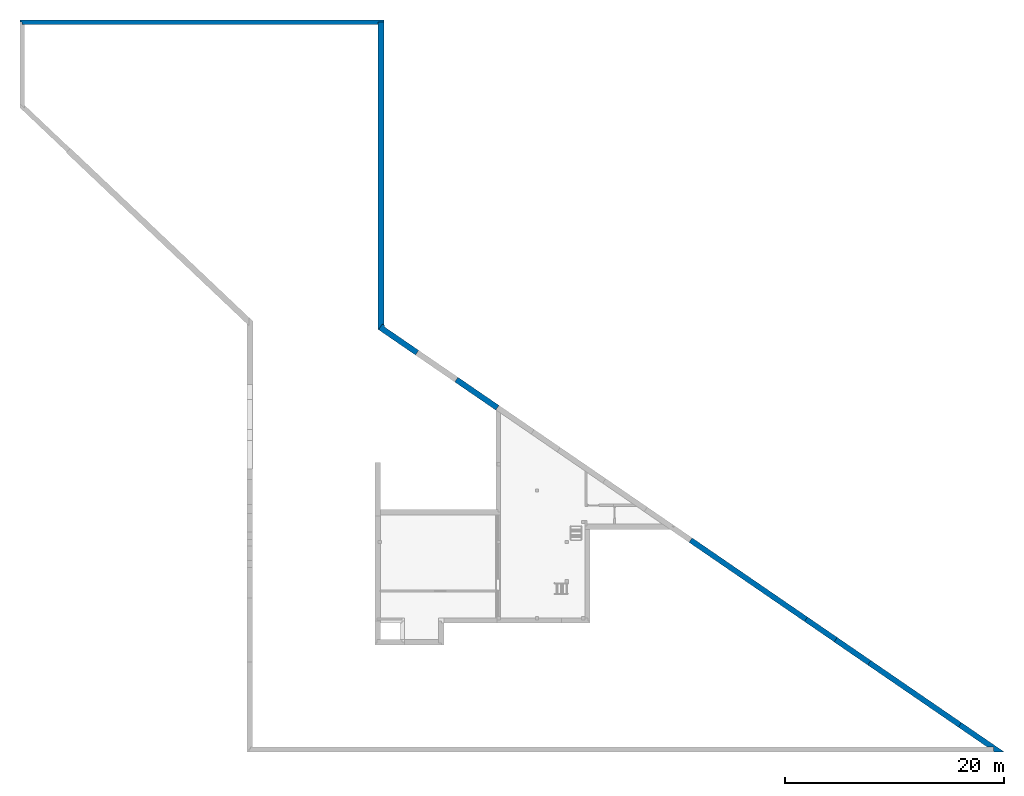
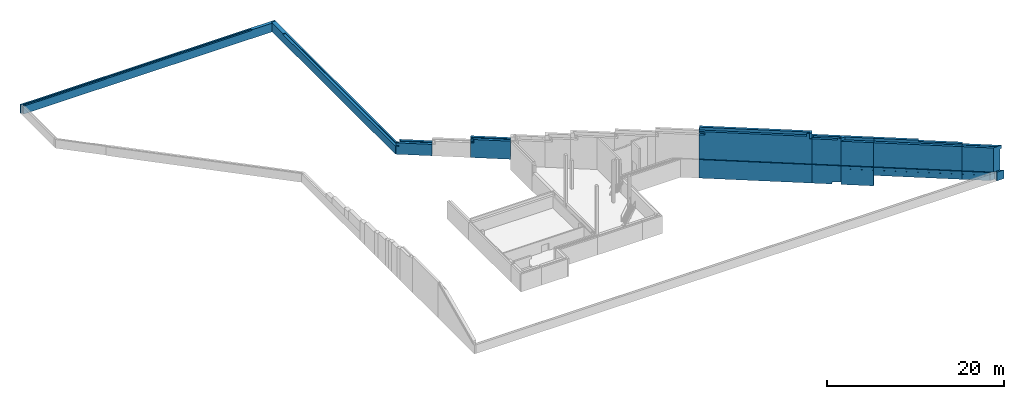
# One storey, part 8 of 8: 9 walls.
"""IFC2X3 building model written with IfcOpenShell, lengths in millimetres."""

from ifc_helpers import new_model, entity, si_unit, converted_unit, derived_unit, money_unit, direction, frame, origin_with_axes, place, context, subcontext, project, spatial, faceted_brep, material, material_list, type_object, element, save


model = new_model("IFC2X3")

# Units and contexts
model_context = context("Model", 3, precision=0.01, world=origin_with_axes(), true_north=direction((0.0, 1.0)))
body_context = subcontext(model_context, "Body", "Model", "MODEL_VIEW")
ifc_project = project(units=[si_unit("LENGTHUNIT", "METRE", prefix="MILLI"), si_unit("AREAUNIT", "SQUARE_METRE"), si_unit("VOLUMEUNIT", "CUBIC_METRE"), converted_unit("PLANEANGLEUNIT", "DEGREE", entity("IfcPlaneAngleMeasure", 0.0174532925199), si_unit("PLANEANGLEUNIT", "RADIAN"), dimensions=[0, 0, 0, 0, 0, 0, 0]), si_unit("SOLIDANGLEUNIT", "STERADIAN"), money_unit("EUR"), converted_unit("TIMEUNIT", "Year", entity("IfcTimeMeasure", 31556926.0), si_unit("TIMEUNIT", "SECOND"), dimensions=[0, 0, 1, 0, 0, 0, 0]), si_unit("MASSUNIT", "GRAM", prefix="KILO"), si_unit("THERMODYNAMICTEMPERATUREUNIT", "DEGREE_CELSIUS"), si_unit("LUMINOUSINTENSITYUNIT", "LUMEN"), si_unit("ENERGYUNIT", "JOULE", prefix="MEGA"), derived_unit("THERMALCONDUCTANCEUNIT", [(si_unit("POWERUNIT", "WATT"), 1), (si_unit("LENGTHUNIT", "METRE"), -1), (si_unit("THERMODYNAMICTEMPERATUREUNIT", "KELVIN"), -1)]), derived_unit("SPECIFICHEATCAPACITYUNIT", [(si_unit("ENERGYUNIT", "JOULE"), 1), (si_unit("MASSUNIT", "GRAM", prefix="KILO"), -1), (si_unit("THERMODYNAMICTEMPERATUREUNIT", "KELVIN"), -1)]), derived_unit("MASSDENSITYUNIT", [(si_unit("MASSUNIT", "GRAM", prefix="KILO"), 1), (si_unit("VOLUMEUNIT", "CUBIC_METRE"), -1)])], contexts=[model_context])

# Site, building, storey
site_placement = place(None, origin_with_axes())
site = spatial("IfcSite", under=ifc_project, at=site_placement, Name="L.Koidula tn 11b", CompositionType="ELEMENT")
building_placement = place(site_placement, origin_with_axes())
building = spatial("IfcBuilding", under=site, at=building_placement, Name="Rakvere Riigigümnaasium", CompositionType="ELEMENT")
storey_placement = place(building_placement, frame((0.0, 0.0, -2100.0), z_axis=(0.0, 0.0, 1.0), x_axis=(1.0, 0.0, 0.0)))
storey = spatial("IfcBuildingStorey", under=building, at=storey_placement, Name="1.korrus_tehniline -2,10", CompositionType="ELEMENT", Elevation=-2100.0)

# Walls
ifc_material_1 = material(Name="SOJ-04_Soojustus - Mineraal Kõva")
ifc_material_2 = material(Name="Betoon element / plaat")
ifc_material_list_1 = material_list([ifc_material_1, ifc_material_2])
wall_type_1 = type_object("IfcWallType", Name="VS-04 400", PredefinedType="NOTDEFINED")
wall_1_placement = place(storey_placement, frame((14630.0344055, 71600.4516838, 899.999983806), z_axis=(0.0, 0.0, 1.0), x_axis=(1.0, 0.0, 0.0)))
element("IfcWall", 1, at=wall_1_placement, inside=storey, type_object=wall_type_1, material=ifc_material_list_1, Name="Välissein", context=body_context, shape_type="Brep", body=[
    faceted_brep([(32894.9655879, 200.0, 1200.0), (32894.9655879, 400.0, 1200.0), (-400.0, 400.0, 1200.0), (-400.0, 200.0, 1200.0), (32894.9655879, 200.0, 0.0), (32894.9655879, 400.0, 0.0), (-400.0, 400.0, 0.0), (-400.0, 200.0, 0.0)], [[[0, 1, 2, 3]], [[1, 0, 4, 5]], [[1, 5, 6, 2]], [[7, 3, 2, 6]], [[4, 0, 3, 7]], [[5, 4, 7, 6]]]),
    faceted_brep([(29700.0004475, 200.000117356, 1110.00001619), (29700.0004475, 200.000117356, 1200.00001619), (32344.9655879, 200.0, 1200.0), (32344.9655879, 200.0, 0.0), (-200.0, 200.0, 0.0), (-200.0, 200.0, 1200.0), (-100.0, 200.0, 1200.00001619), (-100.0, 200.0, 1093.00001619), (1711.96562367, 200.000052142, 1093.00001619), (1711.96562367, 200.000052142, 1080.00001619), (10669.9654986, 200.000309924, 1080.00001619), (10669.9654986, 200.000309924, 1110.00001619), (29700.0004475, 0.0, 1110.00001619), (29700.0004475, 0.0, 1200.00001619), (32344.9655879, 0.0, 1200.0), (32344.9655879, 0.0, 0.0), (-200.0, 0.0, 0.0), (-200.0, 0.0, 1200.0), (-100.0, 0.0, 1199.99992178), (-100.0, 0.0, 1093.00001619), (1711.96562367, 0.0, 1093.00001619), (1711.96562367, 0.0, 1080.00001619), (10669.9654985, 0.0, 1080.00001619), (10669.9654985, 0.0, 1110.00001619)], [[[0, 1, 2, 3, 4, 5, 6, 7, 8, 9, 10, 11]], [[1, 0, 12, 13]], [[1, 13, 14, 2]], [[2, 14, 15, 3]], [[3, 15, 16, 4]], [[16, 17, 5, 4]], [[18, 6, 5, 17]], [[19, 7, 6, 18]], [[20, 8, 7, 19]], [[8, 20, 21, 9]], [[10, 9, 21, 22]], [[23, 11, 10, 22]], [[12, 0, 11, 23]], [[12, 23, 22, 21, 20, 19, 18, 17, 16, 15, 14, 13]]]),
])
wall_type_2 = type_object("IfcWallType", Name="VS-08 550", PredefinedType="NOTDEFINED")
wall_2_placement = place(storey_placement, frame((46974.9999935, 71600.4516838, 899.999983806), z_axis=(0.0, 0.0, 1.0), x_axis=(0.0, -1.0, 0.0)))
element("IfcWall", 2, at=wall_2_placement, inside=storey, type_object=wall_type_2, material=ifc_material_list_1, Name="Välissein", context=body_context, shape_type="Brep", body=[
    faceted_brep([(27897.7930206, 350.0, 1200.0), (27897.7930206, 550.0, 1200.0), (-200.0, 550.0, 1200.0), (-200.0, 350.0, 1200.0), (27897.7930206, 350.0, 0.0), (27897.7930206, 550.0, 0.0), (-200.0, 550.0, 0.0), (-200.0, 350.0, 0.0)], [[[0, 1, 2, 3]], [[0, 4, 5, 1]], [[1, 5, 6, 2]], [[3, 2, 6, 7]], [[4, 0, 3, 7]], [[5, 4, 7, 6]]]),
    faceted_brep([(27499.9961734, 325.0, 1200.00001619), (27499.9961734, 325.0, 1110.00001619), (27499.9961734, 344.999989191, 1110.00001619), (27499.9961734, 344.999989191, 1200.00001619), (2421.32038252, 325.0, 1110.00001619), (2421.32038252, 325.0, 1200.00001619), (27897.7930206, 0.0, 1110.00001619), (27897.7930206, 344.999989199, 1110.00001619), (2421.32038252, 0.0, 1110.00001619), (27897.7930206, 344.999989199, 1200.00001619), (27897.7930206, 350.0, 1200.0), (-200.0, 350.0, 1200.0), (-200.0, 0.0, 1200.0), (2421.32038252, 0.0, 1200.00001619), (27897.7930206, 0.0, 0.0), (27897.7930206, 350.0, 0.0), (-200.0, 0.0, 0.0), (-200.0, 350.0, 0.0)], [[[0, 1, 2, 3]], [[4, 1, 0, 5]], [[6, 7, 2, 1, 4, 8]], [[3, 2, 7, 9]], [[5, 0, 3, 9, 10, 11, 12, 13]], [[8, 4, 5, 13]], [[7, 6, 14, 15, 10, 9]], [[8, 13, 12, 16, 14, 6]], [[11, 10, 15, 17]], [[16, 12, 11, 17]], [[17, 15, 14, 16]]]),
])
ifc_material_3 = material(Name="Betoon")
ifc_material_4 = material(Name="Krohv")
ifc_material_list_2 = material_list([ifc_material_3, ifc_material_1, ifc_material_2, ifc_material_4])
wall_type_3 = type_object("IfcWallType", Name="VS-07-2 610", PredefinedType="NOTDEFINED")
wall_3_placement = place(storey_placement, frame((88720.8224893, 15100.4785302, -550.0), z_axis=(0.0, 0.0, 1.0), x_axis=(0.824666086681, -0.565619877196, 0.0)))
element("IfcWall", 3, at=wall_3_placement, inside=storey, type_object=wall_type_3, material=ifc_material_list_2, Name="Välissein", context=body_context, shape_type="Brep", body=[
    faceted_brep([(3734.81331839, 500.0, 5851.72395226), (3734.81331839, 600.0, 5851.72395169), (3734.81331839, 600.0, 6370.0), (3734.81331839, 500.0, 6370.0), (0.0, 600.0, 5930.40721476), (0.0, 500.0, 5930.40721534), (0.0, 600.0, 6370.0), (0.0, 500.0, 6370.0)], [[[0, 1, 2, 3]], [[4, 1, 0, 5]], [[1, 4, 6, 2]], [[2, 6, 7, 3]], [[5, 0, 3, 7]], [[4, 5, 7, 6]]]),
    faceted_brep([(3734.81331839, 499.770000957, 0.0), (3734.81331839, 499.770000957, 5851.72395226), (3734.81331839, 500.0, 5851.72395226), (3734.81331839, 500.0, 6370.0), (3734.81331839, 300.0, 6370.0), (3734.81331839, 300.0, 0.0), (0.0, 499.768982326, 0.0), (0.0, 499.768982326, 5930.40721534), (0.0, 500.0, 5930.40721534), (0.0, 500.0, 6370.0), (0.0, 300.0, 6370.0), (0.0, 300.0, 0.0)], [[[0, 1, 2, 3, 4, 5]], [[1, 0, 6, 7]], [[8, 2, 1, 7]], [[2, 8, 9, 3]], [[3, 9, 10, 4]], [[4, 10, 11, 5]], [[6, 0, 5, 11]], [[7, 6, 11, 10, 9, 8]]]),
    faceted_brep([(3734.81331839, 0.0, 2640.0), (0.0, 0.0, 2640.0), (0.0, 299.984460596, 2640.0), (3734.81331839, 299.984460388, 2640.0), (3734.81331839, 0.0, 5975.0), (0.0, 0.0, 5975.0), (0.0, 299.984460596, 2560.0), (0.0, 0.0, 6370.0), (0.0, 242.488195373, 6370.0), (0.0, 242.488195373, 6120.0), (0.0, 299.989154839, 6120.0), (0.0, 299.989154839, 6370.0), (0.0, 300.0, 6370.0), (0.0, 300.0, 0.0), (0.0, 0.0, 0.0), (0.0, 0.0, 2560.0), (3734.81331839, 299.984460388, 2560.0), (3734.81331839, 299.995901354, 5975.0), (3734.81331839, 0.0, 2560.0), (3734.81331839, 0.0, 0.0), (3734.81331839, 300.0, 0.0), (437.388664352, 299.995024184, 5975.0), (437.388664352, 299.995024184, 6370.0), (83.8357515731, 299.989021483, 6370.0), (83.8357515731, 299.989021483, 6120.0)], [[[0, 1, 2, 3]], [[0, 4, 5, 1]], [[6, 2, 1, 5, 7, 8, 9, 10, 11, 12, 13, 14, 15]], [[16, 3, 2, 6]], [[17, 4, 0, 3, 16, 18, 19, 20]], [[21, 5, 4, 17]], [[7, 5, 21, 22]], [[8, 7, 22, 12, 11, 23]], [[9, 8, 23, 24]], [[24, 10, 9]], [[24, 23, 11, 10]], [[22, 21, 17, 20, 13, 12]], [[20, 19, 14, 13]], [[19, 18, 15, 14]], [[16, 6, 15, 18]]]),
    faceted_brep([(17.6797181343, 0.0, 2650.0), (17.6797181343, 0.0, 5975.0), (3217.7493938, 0.0, 5975.0), (3217.7493938, 0.0, 2650.0), (3.09985416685, -10.0, 2650.0), (3.09985416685, -10.0, 5975.0), (3203.16953822, -10.0, 5975.0), (3203.16953822, -10.0, 2650.0)], [[[0, 1, 2, 3]], [[4, 5, 1, 0]], [[5, 6, 2, 1]], [[3, 2, 6, 7]], [[4, 0, 3, 7]], [[7, 6, 5, 4]]]),
    faceted_brep([(0.0, 0.0, 2160.0), (3734.81331839, 0.0, 2160.0), (3734.81331839, 0.0, 0.0), (0.0, 0.0, 0.0), (0.0, -10.0, 2160.0), (3734.81331839, -10.0, 2160.0), (3734.81331839, -10.0, 0.0), (0.0, -10.0, 0.0)], [[[0, 1, 2, 3]], [[4, 5, 1, 0]], [[2, 1, 5, 6]], [[2, 6, 7, 3]], [[7, 4, 0, 3]], [[6, 5, 4, 7]]]),
    faceted_brep([(3589.0233294, 0.0, 2650.0), (3589.0233294, 0.0, 5975.0), (3734.81331839, 0.0, 5975.0), (3734.81331839, 0.0, 2650.0), (3574.44347382, -10.0, 2650.0), (3574.44347382, -9.99999999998, 5975.0), (3734.81331839, -10.0, 5975.0), (3734.81331839, -10.0, 2650.0)], [[[0, 1, 2, 3]], [[4, 5, 1, 0]], [[5, 6, 2, 1]], [[3, 2, 6, 7]], [[4, 0, 3, 7]], [[7, 6, 5, 4]]]),
])
wall_4_placement = place(storey_placement, frame((100081.800238, 7308.24001987, 900.0), z_axis=(0.0, 0.0, 1.0), x_axis=(0.824666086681, -0.565619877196, 0.0)))
element("IfcWall", 4, at=wall_4_placement, inside=storey, type_object=wall_type_3, material=ifc_material_list_2, Name="Välissein", context=body_context, shape_type="Brep", body=[
    faceted_brep([(4278.69956714, 500.000000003, 4100.02977862), (4424.49818951, 599.999988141, 4096.95816231), (4424.49818935, 599.999988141, 4544.20366831), (4278.69956697, 500.000000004, 4544.20366831), (0.0, 600.0, 4190.17137683), (0.0, 500.0, 4190.1713774), (0.0, 600.0, 4544.20366831), (0.0, 500.0, 4544.20366831)], [[[0, 1, 2, 3]], [[4, 1, 0, 5]], [[1, 4, 6, 2]], [[6, 7, 3, 2]], [[5, 0, 3, 7]], [[4, 5, 7, 6]]]),
    faceted_brep([(4720.36305623, 499.774027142, -1.61944653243e-05), (4720.36305623, 499.774027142, 1199.99998381), (4429.09524223, 300.0, 1199.99998381), (4429.09524223, 300.0, -1.61944653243e-05), (4278.36992711, 499.773906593, 1199.99998385), (0.0, 499.772739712, 0.0), (0.0, 499.772739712, 4190.1713774), (4278.36992711, 499.773906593, 4100.03672332), (3987.10228888, 300.0, 1199.99998393), (3633.50792619, 300.0, -1.61944653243e-05), (3633.50792619, 300.0, 1199.99998381), (3697.53749588, 300.0, 1199.99998381), (3697.53749588, 300.0, -1.61944653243e-05), (3987.10228764, 300.000000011, 4544.20366831), (0.0, 300.0, 4544.20366831), (0.0, 300.0, 0.0), (3677.05278166, 329.866434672, -1.61944653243e-05), (0.0, 500.0, 4544.20366831), (0.0, 500.0, 4190.1713774), (4278.69956714, 500.000000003, 4100.02977862), (4278.69956697, 500.000000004, 4544.20366831), (3677.05278166, 329.866434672, 1199.99998381)], [[[0, 1, 2, 3]], [[4, 1, 0, 5, 6, 7]], [[1, 4, 8, 2]], [[9, 10, 11, 12, 3, 2, 8, 13, 14, 15]], [[5, 0, 3, 12, 16, 9, 15]], [[6, 5, 15, 14, 17, 18]], [[18, 19, 7, 6]], [[7, 19, 20, 13, 8, 4]], [[21, 10, 9, 16]], [[10, 21, 11]], [[11, 21, 16, 12]], [[17, 14, 13, 20]], [[19, 18, 17, 20]]]),
    faceted_brep([(0.0, 300.0, 0.0), (3.69482222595e-10, 299.998572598, 4525.0), (3987.10175413, 299.999633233, 4525.0), (3987.10228888, 300.0, 1199.99998393), (4429.09524223, 300.0, 1199.99998381), (4429.09524223, 300.0, -1.61944653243e-05), (3697.53749588, 300.0, -1.61944653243e-05), (3697.53749588, 300.0, 1199.99998381), (3633.50792619, 300.0, 1199.99998381), (3633.50792619, 300.0, -1.61944653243e-05), (0.0, 0.0, 1190.0), (0.0, 0.0, 4525.0), (0.0, 0.0, 0.0), (0.0, 0.0, 1110.0), (0.0, 299.984453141, 1110.0), (0.0, 299.984453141, 1190.0), (3549.70636904, -5.57584201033e-07, 4525.0), (3549.70636964, -1.47856837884e-07, 1199.99998381), (3790.1767571, 164.933217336, 1199.99998381), (3903.30073254, 0.0, 1199.99998381), (3991.69932321, 0.0, 1199.99998381), (3991.69932321, 0.0, -1.61944653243e-05), (3903.30073254, 0.0, -1.61944653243e-05), (3790.1767571, 164.933217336, 1190.0), (3790.1767571, 164.933217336, 1110.0), (3697.54816095, 299.984450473, 1110.0), (3697.54816095, 299.984450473, 1190.0), (3196.11200716, 0.0, 1199.99998381), (3633.48525526, 299.984450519, 1190.0), (3633.48525526, 299.984450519, 1110.0), (3196.11200716, 0.0, 1110.0), (3196.11200716, 0.0, -1.61944653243e-05), (3196.11200716, 0.0, 1190.0), (3987.07961757, 299.984450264, 1110.0), (3987.07961757, 299.984450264, 1190.0)], [[[0, 1, 2, 3, 4, 5, 6, 7, 8, 9]], [[10, 11, 1, 0, 12, 13, 14, 15]], [[11, 16, 2, 1]], [[3, 2, 16, 17, 18]], [[4, 3, 18, 19, 20]], [[21, 5, 4, 20]], [[21, 22, 6, 5]], [[22, 19, 18, 7, 6], [23, 24, 25, 26]], [[17, 27, 8, 7, 18]], [[28, 29, 30, 31, 9, 8, 27, 32]], [[12, 0, 9, 31]], [[17, 16, 11, 10, 32, 27]], [[31, 30, 13, 12]], [[13, 30, 29, 14]], [[14, 29, 28, 15]], [[15, 28, 32, 10]], [[21, 20, 19, 22]], [[33, 24, 23, 34]], [[33, 25, 24]], [[34, 26, 25, 33]], [[34, 23, 26]]]),
    faceted_brep([(0.0, 0.0, 0.0), (0.0, 0.0, 710.0), (3196.11200655, 2.92743607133e-09, 710.0), (3196.11200716, 0.0, -1.61944653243e-05), (0.0, -10.0, 0.0), (0.0, -10.0, 710.0), (3181.53214259, -9.99999999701, 710.0), (3181.5321432, -9.99999999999, -1.61944653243e-05)], [[[0, 1, 2, 3]], [[4, 5, 1, 0]], [[5, 6, 2, 1]], [[3, 2, 6, 7]], [[4, 0, 3, 7]], [[7, 6, 5, 4]]]),
    faceted_brep([(3991.69932321, 0.0, 1199.99998381), (3991.69932321, 0.0, -1.61944653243e-05), (3903.30073254, 0.0, -1.61944653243e-05), (3903.30073254, 0.0, 1199.99998381), (3977.11945924, -10.0, -1.61944653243e-05), (3977.11945924, -10.0, 1199.99998381), (3910.15950709, -10.0, -1.61944653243e-05), (3910.15950709, -10.0, 1199.99998381)], [[[0, 1, 2, 3]], [[4, 1, 0, 5]], [[1, 4, 6, 2]], [[2, 6, 7, 3]], [[5, 0, 3, 7]], [[4, 5, 7, 6]]]),
    faceted_brep([(0.0, 0.0, 1200.0), (0.0, 0.0, 4525.0), (3196.11200327, 1.87085902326e-08, 4525.0), (3196.11200613, 4.96669372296e-09, 1200.0), (0.0, -10.0, 1200.0), (0.0, -9.99999999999, 4525.0), (3181.5321393, -9.99999998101, 4525.0), (3181.53214216, -9.99999999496, 1200.0)], [[[0, 1, 2, 3]], [[4, 5, 1, 0]], [[5, 6, 2, 1]], [[3, 2, 6, 7]], [[4, 0, 3, 7]], [[7, 6, 5, 4]]]),
])
wall_5_placement = place(storey_placement, frame((91800.7963731, 12987.9938797, 900.0), z_axis=(0.0, 0.0, 1.0), x_axis=(0.824666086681, -0.565619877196, 0.0)))
element("IfcWall", 5, at=wall_5_placement, inside=storey, type_object=wall_type_3, material=ifc_material_list_2, Name="Välissein", context=body_context, shape_type="Brep", body=[
    faceted_brep([(5041.6445985, 600.0, 4920.0), (5041.6445985, 600.0, 4748.20366831), (10041.6448236, 600.0, 4748.20366831), (10041.6447315, 600.0, 4190.17137683), (0.0, 600.0, 4401.72395169), (0.0, 600.0, 4920.0), (5041.6446251, 500.0, 4920.0), (5041.6446251, 500.0, 4748.20366831), (10041.6448503, 500.0, 4748.20366831), (10041.6447315, 500.0, 4190.1713774), (0.0, 500.0, 4401.72395226), (0.0, 500.0, 4920.0)], [[[0, 1, 2, 3, 4, 5]], [[1, 0, 6, 7]], [[2, 1, 7, 8]], [[2, 8, 9, 3]], [[9, 10, 4, 3]], [[11, 5, 4, 10]], [[0, 5, 11, 6]], [[10, 9, 8, 7, 6, 11]]]),
    faceted_brep([(5041.6446251, 500.0, 4920.0), (5041.6446251, 500.0, 4748.20366831), (10041.6448503, 500.0, 4748.20366831), (10041.6447315, 500.0, 4190.1713774), (0.0, 500.0, 4401.72395226), (0.0, 500.0, 4920.0), (5041.6446783, 299.997242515, 4920.0), (5041.6446783, 299.997242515, 4748.20366831), (10041.6449035, 299.998572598, 4748.20366831), (10041.6447315, 300.0, 0.0), (10041.6447315, 499.772739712, 0.0), (10041.6447315, 499.772739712, 4190.1713774), (0.0, 499.770000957, 4401.72395226), (0.0, 499.770000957, 0.0), (0.0, 300.0, 0.0), (0.0, 300.0, 4920.0)], [[[0, 1, 2, 3, 4, 5]], [[1, 0, 6, 7]], [[2, 1, 7, 8]], [[2, 8, 9, 10, 11, 3]], [[12, 4, 3, 11]], [[4, 12, 13, 14, 15, 5]], [[0, 5, 15, 6]], [[7, 6, 15, 14, 9, 8]], [[14, 13, 10, 9]], [[12, 11, 10, 13]]]),
    faceted_brep([(1.09423581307e-09, 299.995901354, 4525.0), (10041.6447315, 299.998572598, 4525.0), (10041.6447315, 300.0, 0.0), (0.0, 300.0, 0.0), (0.0, 0.0, 4525.0), (10041.6447315, 0.0, 4525.0), (10041.6447315, 0.0, 1190.0), (10041.6447315, 299.984453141, 1190.0), (10041.6447315, 299.984453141, 1110.0), (10041.6447315, 0.0, 1110.0), (10041.6447315, 0.0, 0.0), (0.0, 0.0, 0.0), (0.0, 0.0, 1190.0), (0.0, 0.0, 1110.0), (0.0, 299.984460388, 1110.0), (0.0, 299.984460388, 1190.0)], [[[0, 1, 2, 3]], [[0, 4, 5, 1]], [[2, 1, 5, 6, 7, 8, 9, 10]], [[11, 3, 2, 10]], [[12, 4, 0, 3, 11, 13, 14, 15]], [[6, 5, 4, 12]], [[15, 7, 6, 12]], [[14, 8, 7, 15]], [[14, 13, 9, 8]], [[10, 9, 13, 11]]]),
    faceted_brep([(0.0, 0.0, 0.0), (0.0, 0.0, 710.0), (10041.6447315, 0.0, 710.0), (10041.6447315, 0.0, 0.0), (0.0, -10.0, 0.0), (0.0, -10.0, 710.0), (10041.6447315, -10.0, 710.0), (10041.6447315, -10.0, 0.0)], [[[0, 1, 2, 3]], [[4, 5, 1, 0]], [[5, 6, 2, 1]], [[3, 2, 6, 7]], [[4, 0, 3, 7]], [[7, 6, 5, 4]]]),
    faceted_brep([(0.0, 0.0, 1200.0), (0.0, 0.0, 4525.0), (10041.6447315, 0.0, 4525.0), (10041.6447315, 0.0, 1200.0), (0.0, -10.0, 1200.0), (0.0, -10.0, 4525.0), (10041.6447315, -10.0, 4525.0), (10041.6447315, -10.0, 1200.0)], [[[0, 1, 2, 3]], [[4, 5, 1, 0]], [[5, 6, 2, 1]], [[3, 2, 6, 7]], [[4, 0, 3, 7]], [[7, 6, 5, 4]]]),
])
ifc_material_list_3 = material_list([ifc_material_3, ifc_material_1, ifc_material_2])
wall_type_4 = type_object("IfcWallType", Name="VS-07-1 600", PredefinedType="NOTDEFINED")
wall_6_placement = place(storey_placement, frame((75445.0913723, 24205.9991517, -550.0), z_axis=(0.0, 0.0, 1.0), x_axis=(0.824666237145, -0.565619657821, 0.0)))
element("IfcWall", 6, at=wall_6_placement, inside=storey, type_object=wall_type_4, material=ifc_material_list_3, Name="Välissein", context=body_context, shape_type="Brep", body=[
    faceted_brep([(5974.37851573, 500.0, 6400.07148483), (5974.37851506, 600.0, 6400.07148483), (11203.3730122, 600.0, 6033.53138481), (11203.3730128, 500.0, 6033.53138481), (0.0, 600.0, 5791.10449971), (0.0, 500.0, 5791.10449964), (0.0, 600.0, 6835.0), (12798.4313434, 600.0, 6835.0), (12798.4313434, 600.0, 5999.92745776), (12798.4313434, 500.0, 5999.92745778), (12798.4313434, 500.0, 6835.0), (0.0, 500.0, 6835.0)], [[[0, 1, 2, 3]], [[4, 1, 0, 5]], [[1, 4, 6, 7, 8, 2]], [[3, 2, 8, 9]], [[5, 0, 3, 9, 10, 11]], [[4, 5, 11, 6]], [[11, 10, 7, 6]], [[10, 9, 8, 7]]]),
    faceted_brep([(5974.37851573, 499.76797782, 6400.07148483), (5974.37851573, 500.0, 6400.07148483), (11203.3730128, 500.0, 6033.53138481), (11203.3730128, 499.768012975, 6033.53138481), (0.0, 500.0, 5791.10449964), (0.0, 499.767937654, 5791.10449964), (0.0, 500.0, 6835.0), (12798.4313434, 500.0, 6835.0), (12798.4313434, 500.0, 5999.92745778), (12798.4313434, 499.768023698, 5999.92745778), (5974.37851573, 499.76797782, 0.0), (0.0, 499.767937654, 0.0), (12798.4313434, 499.768023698, 0.0), (0.0, 300.0, 0.0), (0.0, 300.0, 6835.0), (12798.4313434, 300.0, 6835.0), (12798.4313434, 300.0, 0.0)], [[[0, 1, 2, 3]], [[4, 1, 0, 5]], [[1, 4, 6, 7, 8, 2]], [[3, 2, 8, 9]], [[10, 11, 5, 0, 3, 9, 12]], [[5, 11, 13, 14, 6, 4]], [[14, 15, 7, 6]], [[16, 12, 9, 8, 7, 15]], [[11, 10, 12, 16, 13]], [[13, 16, 15, 14]]]),
    faceted_brep([(12173.4517442, 0.0, 6835.0), (12528.0318749, 0.0, 6835.0), (12798.4313434, 185.460865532, 6835.0), (12798.4313434, 300.0, 6835.0), (12610.8391231, 299.993971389, 6835.0), (12528.0318749, 0.0, 6120.0), (12528.0318749, 0.0, 6370.0), (12173.4517442, 0.0, 6440.0), (1.00002128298, 0.0, 6440.0), (1.00002128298, 0.0, 6835.0), (0.0, 0.0, 6835.0), (0.0, 0.0, 6240.0), (648.612118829, 0.0, 6240.0), (648.612118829, 0.0, 5975.0), (0.0, 0.0, 5975.0), (0.0, 0.0, 2640.0), (12798.4313434, 0.0, 2640.0), (12798.4313434, 0.0, 6120.0), (12798.4313434, 185.460865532, 6370.0), (12798.4313434, 185.460865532, 6120.0), (12798.4313434, 299.984306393, 2640.0), (12798.4313434, 299.984306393, 2560.0), (12798.4313434, 0.0, 2560.0), (12798.4313434, 0.0, 0.0), (12798.4313434, 300.0, 0.0), (0.0, 300.0, 0.0), (0.0, 300.0, 6835.0), (1.000021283, 299.993971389, 6835.0), (1.000021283, 299.993971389, 6440.0), (12610.8391231, 299.993971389, 6440.0), (0.0, 0.0, 0.0), (0.0, 0.0, 2560.0), (0.0, 299.987820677, 2560.0), (0.0, 299.987820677, 2640.0), (0.0, 299.986424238, 5975.0), (0.0, 299.986424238, 6240.0), (442.858761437, 299.985767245, 6240.0), (442.858761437, 299.985767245, 5975.0)], [[[0, 1, 2, 3, 4]], [[5, 6, 1, 0, 7, 8, 9, 10, 11, 12, 13, 14, 15, 16, 17]], [[6, 18, 2, 1]], [[3, 2, 18, 19, 17, 16, 20, 21, 22, 23, 24]], [[3, 24, 25, 26, 27, 28, 29, 4]], [[0, 4, 29, 7]], [[19, 18, 6, 5]], [[7, 29, 28, 8]], [[9, 8, 28, 27]], [[10, 9, 27, 26]], [[26, 25, 30, 31, 32, 33, 15, 14, 34, 35, 11, 10]], [[36, 12, 11, 35]], [[37, 13, 12, 36]], [[34, 14, 13, 37]], [[16, 15, 33, 20]], [[19, 5, 17]], [[33, 32, 21, 20]], [[21, 32, 31, 22]], [[23, 22, 31, 30]], [[30, 25, 24, 23]], [[36, 35, 34, 37]]]),
])
wall_7_placement = place(storey_placement, frame((85999.5254468, 16966.9548215, -550.0), z_axis=(0.0, 0.0, 1.0), x_axis=(0.824666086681, -0.565619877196, 0.0)))
element("IfcWall", 7, at=wall_7_placement, inside=storey, type_object=wall_type_4, material=ifc_material_list_3, Name="Välissein", context=body_context, shape_type="Brep", body=[
    faceted_brep([(3299.87747333, 500.0, 5930.40721534), (3299.87747333, 600.0, 5930.40721476), (3299.87747333, 600.0, 6370.0), (3299.87747333, 500.0, 6370.0), (0.0, 600.0, 5999.9274572), (0.0, 500.0, 5999.92745777), (0.0, 600.0, 6370.0), (0.0, 500.0, 6370.0)], [[[0, 1, 2, 3]], [[4, 1, 0, 5]], [[1, 4, 6, 2]], [[7, 3, 2, 6]], [[5, 0, 3, 7]], [[4, 5, 7, 6]]]),
    faceted_brep([(3299.87747333, 499.768982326, 300.013713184), (3299.87747333, 499.768982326, 5930.40721534), (3299.87747333, 500.0, 5930.40721534), (3299.87747333, 500.0, 6370.0), (3299.87747333, 300.0, 6370.0), (3299.87747333, 300.0, 300.013713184), (2304.86227892, 499.768710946, 300.013713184), (2304.86227892, 499.768710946, 0.0), (0.0, 499.768082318, 0.0), (0.0, 499.768082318, 5999.92745778), (0.0, 500.0, 5999.92745777), (0.0, 500.0, 6370.0), (0.0, 300.0, 6370.0), (2304.86227937, 300.0, 0.0), (2304.86227937, 300.0, 300.013713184), (0.0, 300.0, 0.0)], [[[0, 1, 2, 3, 4, 5]], [[1, 0, 6, 7, 8, 9]], [[10, 2, 1, 9]], [[2, 10, 11, 3]], [[12, 4, 3, 11]], [[13, 14, 5, 4, 12, 15]], [[6, 0, 5, 14]], [[7, 6, 14, 13]], [[8, 7, 13, 15]], [[9, 8, 15, 12, 11, 10]]]),
    faceted_brep([(3299.87747333, 0.0, 2560.0), (3299.87747333, 0.0, 300.013713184), (3299.87747333, 299.99946835, 300.013713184), (3299.87747331, 299.989154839, 6120.0), (3299.87747333, 242.488195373, 6120.0), (3299.87747333, 242.488195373, 6370.0), (3299.87747333, 0.0, 6370.0), (3299.87747333, 0.0, 2640.0), (3299.87747333, 299.984460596, 2640.0), (3299.87747333, 299.984460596, 2560.0), (2304.86228004, 0.0, 0.0), (2304.86228004, 0.0, 300.013713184), (0.0, 0.0, 2560.0), (0.0, 0.0, 0.0), (2304.86227937, 300.0, 300.013713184), (166.987887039, 299.994138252, 6120.0), (0.0, 185.460866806, 6120.0), (0.0, 0.0, 6120.0), (2946.33159439, 0.0, 6120.0), (2946.33159439, 0.0, 6370.0), (0.0, 0.0, 2640.0), (0.0, 299.984365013, 2640.0), (0.0, 299.984365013, 2560.0), (2304.86227937, 300.0, 0.0), (0.0, 185.460866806, 6370.0), (0.0, 300.0, 6370.0), (0.0, 300.0, 0.0), (166.987887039, 299.994138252, 6370.0)], [[[0, 1, 2, 3, 4, 5, 6, 7, 8, 9]], [[10, 11, 1, 0, 12, 13]], [[11, 14, 2, 1]], [[14, 3, 2]], [[3, 15, 16, 17, 18, 4]], [[18, 19, 5, 4]], [[19, 6, 5]], [[19, 18, 17, 20, 7, 6]], [[21, 8, 7, 20]], [[8, 21, 22, 9]], [[22, 12, 0, 9]], [[10, 23, 14, 11]], [[13, 12, 22, 21, 20, 17, 16, 24, 25, 26]], [[26, 23, 10, 13]], [[3, 14, 26]], [[3, 26, 15]], [[16, 15, 27, 24]], [[26, 14, 23]], [[27, 25, 24]], [[27, 15, 26, 25]]]),
])
wall_type_5 = type_object("IfcWallType", Name="VS-08-2 625", PredefinedType="NOTDEFINED")
wall_8_placement = place(storey_placement, frame((54006.2150207, 38880.1067911, 900.0), z_axis=(0.0, 0.0, 1.0), x_axis=(0.824666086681, -0.565619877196, 0.0)))
element("IfcWall", 8, at=wall_8_placement, inside=storey, type_object=wall_type_5, material=ifc_material_list_3, Name="Välissein", context=body_context, shape_type="Brep", body=[
    faceted_brep([(4545.55495173, 525.0, 2156.30871966), (4545.55495173, 625.0, 2156.30872244), (4545.55495173, 625.0, 2594.82181515), (4545.55495173, 525.0, 2594.82181515), (0.0, 625.0, 1692.98138426), (0.0, 525.0, 1692.98138148), (0.0, 625.0, 2594.82181515), (0.0, 525.0, 2594.82181515)], [[[0, 1, 2, 3]], [[4, 1, 0, 5]], [[1, 4, 6, 2]], [[6, 7, 3, 2]], [[5, 0, 3, 7]], [[4, 5, 7, 6]]]),
    faceted_brep([(4545.55495173, 524.777778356, 0.0), (4545.55495173, 524.777778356, 2156.30871966), (4545.55495173, 525.0, 2156.30871966), (4545.55495173, 525.0, 2594.82181515), (4545.55495173, 350.0, 2594.82181515), (4545.55495173, 350.0, 0.0), (0.0, 524.776538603, 0.0), (0.0, 524.776538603, 1692.98138147), (0.0, 525.0, 1692.98138148), (0.0, 525.0, 2594.82181515), (0.0, 350.0, 2594.82181515), (0.0, 350.0, 0.0)], [[[0, 1, 2, 3, 4, 5]], [[1, 0, 6, 7]], [[8, 2, 1, 7]], [[2, 8, 9, 3]], [[9, 10, 4, 3]], [[10, 11, 5, 4]], [[6, 0, 5, 11]], [[7, 6, 11, 10, 9, 8]]]),
    faceted_brep([(4545.55495173, 325.000019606, 2594.82181515), (0.00143421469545, 325.000018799, 2594.82181515), (0.00143421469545, 325.000018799, 2504.82181515), (4545.55495173, 325.000019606, 2504.82181515), (0.0, 350.0, 2594.82181515), (4545.55495173, 350.0, 2594.82181515), (0.001434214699, 26.4566563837, 2504.82181515), (0.0, 350.0, 0.0), (0.0, 0.0, 0.0), (0.0, 0.0, 2039.82181515), (0.0, 324.999931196, 2039.82181515), (0.0, 324.999931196, 2119.82181515), (0.0, 0.0, 2119.82181515), (0.0, 0.0, 2594.82181515), (0.001434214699, 26.4566563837, 2594.82181515), (406.182959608, 0.0, 2504.82181515), (4545.55495173, 0.0, 2504.82181515), (18.1474568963, 0.0, 2504.82181515), (42.3993569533, 0.0, 2504.82181515), (17.4936182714, 36.3122281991, 2504.82181515), (264.893444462, 205.998191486, 2504.82181515), (4545.55495173, 0.0, 0.0), (4545.55495173, 350.0, 0.0), (406.182959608, 0.0, 2029.82181515), (42.3993569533, 0.0, 2029.82181515), (42.3993569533, 0.0, 2039.82181515), (17.4936182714, 36.3122281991, 2039.82181515), (264.893445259, 205.998192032, 2039.82181515), (183.272836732, 324.999928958, 2039.82181515), (183.272836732, 324.999928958, 2119.82181515), (264.893445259, 205.998192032, 2119.82181515), (17.4936182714, 36.3122281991, 2119.82181515), (42.3993569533, 0.0, 2119.82181515), (18.1474568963, 0.0, 2594.82181515), (264.893444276, 205.998191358, 2029.82181515), (17.4936182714, 36.3122281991, 2029.82181515)], [[[0, 1, 2, 3]], [[4, 1, 0, 5]], [[6, 2, 1, 4, 7, 8, 9, 10, 11, 12, 13, 14]], [[15, 16, 3, 2, 6, 17, 18, 19, 20]], [[0, 3, 16, 21, 22, 5]], [[22, 7, 4, 5]], [[21, 8, 7, 22]], [[21, 16, 15, 23, 24, 25, 9, 8]], [[25, 26, 27, 28, 10, 9]], [[29, 11, 10, 28]], [[29, 30, 31, 32, 12, 11]], [[18, 17, 33, 13, 12, 32]], [[13, 33, 14]], [[33, 17, 6, 14]], [[31, 19, 18, 32]], [[30, 20, 19, 31]], [[23, 15, 20, 30, 27, 34]], [[34, 35, 24, 23]], [[35, 26, 25, 24]], [[34, 27, 26, 35]], [[28, 27, 30, 29]]]),
])
wall_9_placement = place(storey_placement, frame((47028.2830115, 43666.1130425, 900.0), z_axis=(0.0, 0.0, 1.0), x_axis=(0.824666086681, -0.565619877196, 0.0)))
element("IfcWall", 9, at=wall_9_placement, inside=storey, type_object=wall_type_5, material=ifc_material_list_3, Name="Välissein", context=body_context, shape_type="Brep", body=[
    faceted_brep([(0.0, 625.0, 1200.0), (264.597344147, 625.0, 1200.0), (380.560657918, 625.0, 1200.0), (380.560657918, 625.0, 1664.82181627), (4102.52419973, 625.0, 1664.82181627), (4102.52419973, 625.0, 1248.669553), (275.868057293, 625.0, 858.619399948), (275.868057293, 625.0, 0.0), (0.0, 625.0, 0.0), (0.0, 525.0, 1200.0), (211.923905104, 525.0, 1200.0), (380.56068452, 525.0, 1200.0), (380.56068452, 525.0, 1664.82181627), (4102.52419973, 525.0, 1664.82181627), (4102.52419973, 525.0, 1248.66955022), (275.868084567, 525.0, 858.619399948), (275.868084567, 525.0, 0.0), (0.0, 525.0, 0.0)], [[[0, 1, 2, 3, 4, 5, 6, 7, 8]], [[1, 0, 9, 10, 11, 2]], [[12, 3, 2, 11]], [[4, 3, 12, 13]], [[4, 13, 14, 5]], [[14, 15, 6, 5]], [[15, 16, 7, 6]], [[17, 8, 7, 16]], [[9, 0, 8, 17]], [[9, 17, 16, 15, 14, 13, 12, 11, 10]]]),
    faceted_brep([(0.0, 350.0, 1200.0), (0.0, 525.0, 1200.0), (0.0, 525.0, 0.0), (0.0, 350.0, 0.0), (0.0, 350.0, 1110.0), (0.0, 515.747382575, 1110.0), (0.0, 515.747382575, 1190.0), (0.0, 350.0, 1190.0), (119.745386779, 350.0, 1200.0), (380.560731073, 350.0, 1200.0), (380.56068452, 525.0, 1200.0), (211.923905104, 525.0, 1200.0), (380.56068452, 525.0, 1664.82181627), (4102.52419973, 525.0, 1664.82181627), (4102.52419973, 525.0, 1248.66955022), (275.868084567, 525.0, 858.619399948), (275.868084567, 525.0, 0.0), (275.868084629, 524.774306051, 0.0), (4102.52419973, 524.775349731, 0.0), (4102.52419973, 350.0, 0.0), (113.682393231, 350.0, 1190.0), (113.682393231, 350.0, 1110.0), (4102.52419973, 350.0, 1664.82181627), (380.560731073, 350.0, 1664.82181627), (4102.52419973, 524.775349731, 1248.66955021), (275.868084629, 524.774306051, 858.619399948)], [[[0, 1, 2, 3, 4, 5, 6, 7]], [[1, 0, 8, 9, 10, 11]], [[1, 11, 10, 12, 13, 14, 15, 16, 2]], [[2, 16, 17, 18, 19, 3]], [[0, 7, 20, 21, 4, 3, 19, 22, 23, 9, 8]], [[21, 5, 4]], [[6, 5, 21, 20]], [[20, 7, 6]], [[23, 12, 10, 9]], [[13, 12, 23, 22]], [[22, 19, 18, 24, 14, 13]], [[24, 25, 15, 14]], [[25, 17, 16, 15]], [[17, 25, 24, 18]]]),
    faceted_brep([(0.0, 350.0, 1200.0), (119.745386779, 350.0, 1200.0), (380.560731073, 350.0, 1200.0), (380.560731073, 350.0, 1664.82181627), (4102.52419973, 350.0, 1664.82181627), (4102.52419973, 350.0, 0.0), (0.0, 350.0, 0.0), (0.0, 350.0, 1110.0), (113.682393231, 350.0, 1110.0), (113.682393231, 350.0, 1190.0), (0.0, 350.0, 1190.0), (0.0, 122.664574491, 1200.0), (0.0, 60.2837928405, 1200.0), (212.449875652, 205.99837298, 1200.0), (336.592503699, 25.0001100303, 1200.0), (380.560817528, 25.000133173, 1200.0), (380.560817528, 25.000133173, 1664.82181627), (380.560817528, 25.000133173, 1574.82181627), (422.560817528, 25.0001443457, 1664.82181627), (423.168633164, 325.000144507, 1664.82181627), (4102.52419973, 325.000016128, 1664.82181627), (4102.52419973, 0.0, 0.0), (4102.52419973, 325.000016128, 1574.82181627), (4102.52419973, 0.0, 1574.82181627), (0.0, 0.0, 0.0), (0.0, 0.0, 1110.0), (353.739503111, 0.0, 1110.0), (353.739503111, 0.0, 1190.0), (0.0, 0.0, 1190.0), (0.0, 0.0, 1574.82181627), (0.0, 25.000026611, 1574.82181627), (0.0, 25.000026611, 1664.82181627), (0.0, 60.2837928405, 1664.82180072), (212.449875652, 205.99837298, 1664.82180072), (336.592503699, 25.0001100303, 1664.82180072), (336.592503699, 25.0001100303, 1574.82181627), (422.560817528, 25.0001443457, 1574.82181627), (423.168633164, 325.000144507, 1574.82181627)], [[[0, 1, 2, 3, 4, 5, 6, 7, 8, 9, 10]], [[11, 12, 13, 14, 15, 2, 1, 0]], [[16, 3, 2, 15, 17]], [[4, 3, 16, 18, 19, 20]], [[21, 5, 4, 20, 22, 23]], [[6, 5, 21, 24]], [[25, 7, 6, 24]], [[8, 7, 25, 26]], [[9, 8, 26, 27]], [[10, 9, 27, 28]], [[11, 0, 10, 28, 29, 30, 31, 32, 12]], [[12, 32, 33, 13]], [[13, 33, 34, 35, 14]], [[14, 35, 17, 15]], [[18, 16, 17, 36]], [[36, 37, 19, 18]], [[19, 37, 22, 20]], [[36, 17, 35, 30, 29, 23, 22, 37]], [[26, 25, 24, 21, 23, 29, 28, 27]], [[30, 35, 34, 31]], [[34, 33, 32, 31]]]),
])

save(model, "model.ifc")
